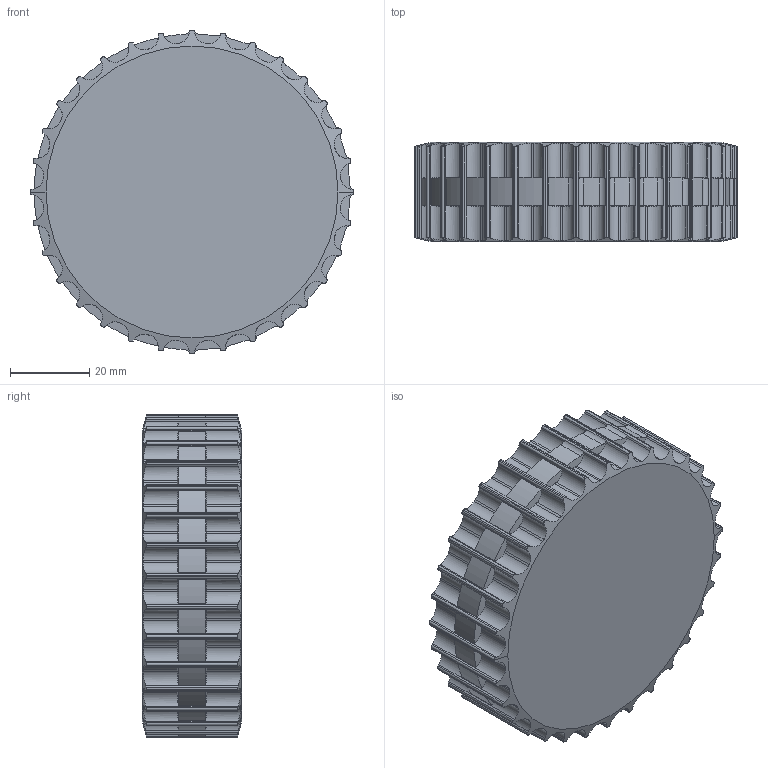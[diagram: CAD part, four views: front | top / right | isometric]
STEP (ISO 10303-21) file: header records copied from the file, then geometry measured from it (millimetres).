
FILE_DESCRIPTION((''),'2;1');
FILE_NAME('633Z32','2014-06-10T',('mth'),(''),'PRO/ENGINEER BY PARAMETRIC TECHNOLOGY CORPORATION, 2014090','PRO/ENGINEER BY PARAMETRIC TECHNOLOGY CORPORATION, 2014090','');
FILE_SCHEMA(('AUTOMOTIVE_DESIGN { 1 0 10303 214 1 1 1 1 }'));
Length unit declared in the file: millimetre
Products named in the file (1): 633Z32
Bounding box: 81.7 x 25 x 81.7 mm (x, y, z)
Volume: 119767.8 mm3; surface area: 17985.4 mm2
Topology: 1 solids, 1 shells, 492 faces, 1470 edges, 980 vertices
Faces by surface type: cylinder 324, plane 100, cone 68
Entity records: 26503 total; most frequent: CARTESIAN_POINT 9624, ORIENTED_EDGE 2940, DIRECTION 2002, PRESENTATION_STYLE_ASSIGNMENT 1471, STYLED_ITEM 1471, CURVE_STYLE 1470, EDGE_CURVE 1470, VERTEX_POINT 980
